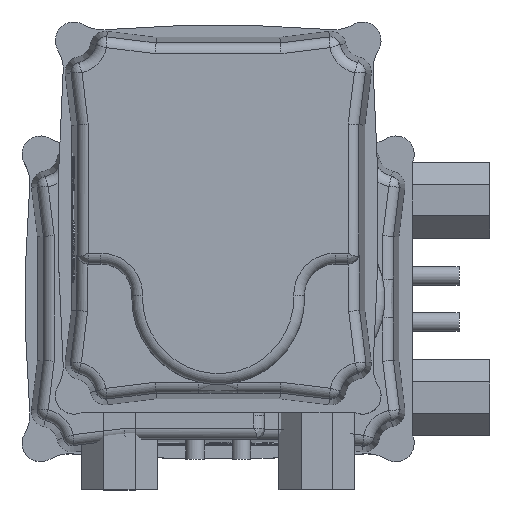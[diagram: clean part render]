
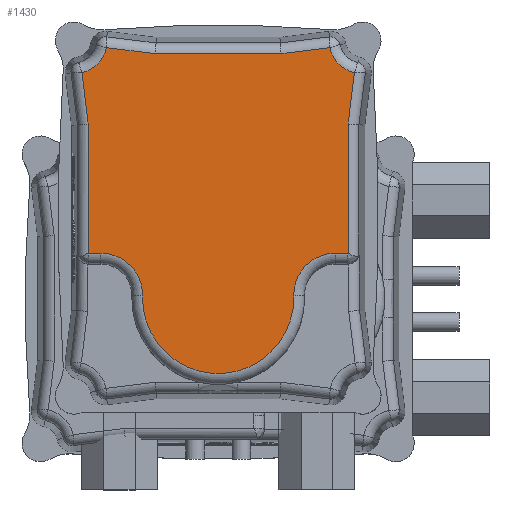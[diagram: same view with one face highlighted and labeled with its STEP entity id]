
A CAD part, top view. The second image highlights one B-rep face of the part: STEP entity #1430.
In plain terms, the highlighted planar face has unit normal (0, 0, 1).
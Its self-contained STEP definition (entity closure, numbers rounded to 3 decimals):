
#1430 = ADVANCED_FACE( '', ( #3238 ), #3239, .T. );
#3238 = FACE_OUTER_BOUND( '', #9111, .T. );
#3239 = PLANE( '', #9112 );
#9111 = EDGE_LOOP( '', ( #14886, #14887, #14888, #14889, #14890, #14891, #14892, #14893, #14894, #14895, #14896, #14897, #14898, #14899, #14900, #14901 ) );
#9112 = AXIS2_PLACEMENT_3D( '', #14902, #14903, #14904 );
#14886 = ORIENTED_EDGE( '', *, *, #17934, .T. );
#14887 = ORIENTED_EDGE( '', *, *, #19137, .T. );
#14888 = ORIENTED_EDGE( '', *, *, #17941, .T. );
#14889 = ORIENTED_EDGE( '', *, *, #18035, .T. );
#14890 = ORIENTED_EDGE( '', *, *, #19097, .T. );
#14891 = ORIENTED_EDGE( '', *, *, #17589, .T. );
#14892 = ORIENTED_EDGE( '', *, *, #18117, .T. );
#14893 = ORIENTED_EDGE( '', *, *, #19138, .T. );
#14894 = ORIENTED_EDGE( '', *, *, #17974, .T. );
#14895 = ORIENTED_EDGE( '', *, *, #19139, .T. );
#14896 = ORIENTED_EDGE( '', *, *, #19140, .T. );
#14897 = ORIENTED_EDGE( '', *, *, #18643, .T. );
#14898 = ORIENTED_EDGE( '', *, *, #18123, .T. );
#14899 = ORIENTED_EDGE( '', *, *, #19141, .T. );
#14900 = ORIENTED_EDGE( '', *, *, #17579, .T. );
#14901 = ORIENTED_EDGE( '', *, *, #18861, .T. );
#14902 = CARTESIAN_POINT( '', ( 47.227, -44.578, 84. ) );
#14903 = DIRECTION( '', ( 0., 0., 1. ) );
#14904 = DIRECTION( '', ( 1., 0., 0. ) );
#17579 = EDGE_CURVE( '', #19835, #19840, #19842, .F. );
#17589 = EDGE_CURVE( '', #19859, #19857, #19860, .T. );
#17934 = EDGE_CURVE( '', #20467, #20472, #20474, .T. );
#17941 = EDGE_CURVE( '', #20485, #20447, #20486, .F. );
#17974 = EDGE_CURVE( '', #20539, #20537, #20540, .T. );
#18035 = EDGE_CURVE( '', #20447, #20642, #20644, .T. );
#18117 = EDGE_CURVE( '', #19857, #20774, #20776, .T. );
#18123 = EDGE_CURVE( '', #20779, #20783, #20785, .T. );
#18643 = EDGE_CURVE( '', #21615, #20779, #21616, .T. );
#18861 = EDGE_CURVE( '', #19840, #20467, #21938, .T. );
#19097 = EDGE_CURVE( '', #20642, #19859, #22248, .T. );
#19137 = EDGE_CURVE( '', #20472, #20485, #22300, .T. );
#19138 = EDGE_CURVE( '', #20774, #20539, #22301, .F. );
#19139 = EDGE_CURVE( '', #20537, #22302, #22303, .F. );
#19140 = EDGE_CURVE( '', #22302, #21615, #22304, .T. );
#19141 = EDGE_CURVE( '', #20783, #19835, #22305, .T. );
#19835 = VERTEX_POINT( '', #23186 );
#19840 = VERTEX_POINT( '', #23210 );
#19842 = CIRCLE( '', #23233, 10.907 );
#19857 = VERTEX_POINT( '', #23252 );
#19859 = VERTEX_POINT( '', #23254 );
#19860 = CIRCLE( '', #23255, 0.5 );
#20447 = VERTEX_POINT( '', #24556 );
#20467 = VERTEX_POINT( '', #24623 );
#20472 = VERTEX_POINT( '', #24629 );
#20474 = LINE( '', #24631, #24632 );
#20485 = VERTEX_POINT( '', #24647 );
#20486 = CIRCLE( '', #24648, 10.907 );
#20537 = VERTEX_POINT( '', #24772 );
#20539 = VERTEX_POINT( '', #24774 );
#20540 = CIRCLE( '', #24775, 24.5 );
#20642 = VERTEX_POINT( '', #25026 );
#20644 = LINE( '', #25028, #25029 );
#20774 = VERTEX_POINT( '', #25400 );
#20776 = LINE( '', #25402, #25403 );
#20779 = VERTEX_POINT( '', #25407 );
#20783 = VERTEX_POINT( '', #25433 );
#20785 = LINE( '', #25435, #25436 );
#21615 = VERTEX_POINT( '', #28199 );
#21616 = CIRCLE( '', #28200, 0.5 );
#21938 = LINE( '', #28789, #28790 );
#22248 = LINE( '', #29492, #29493 );
#22300 = LINE( '', #29562, #29563 );
#22301 = CIRCLE( '', #29564, 13.5 );
#22302 = VERTEX_POINT( '', #29565 );
#22303 = CIRCLE( '', #29566, 13.5 );
#22304 = LINE( '', #29567, #29568 );
#22305 = LINE( '', #29569, #29570 );
#23186 = CARTESIAN_POINT( '', ( -46.913, 44.129, 84. ) );
#23210 = CARTESIAN_POINT( '', ( -55.033, 36.126, 84. ) );
#23233 = AXIS2_PLACEMENT_3D( '', #31393, #31394, #31395 );
#23252 = CARTESIAN_POINT( '', ( 11.5, -42., 84. ) );
#23254 = CARTESIAN_POINT( '', ( 11.491, -42.093, 84. ) );
#23255 = AXIS2_PLACEMENT_3D( '', #31406, #31407, #31408 );
#24556 = CARTESIAN_POINT( '', ( -46.913, -44.129, 84. ) );
#24623 = CARTESIAN_POINT( '', ( -53.093, 20.331, 84. ) );
#24629 = CARTESIAN_POINT( '', ( -53.093, -20.331, 84. ) );
#24631 = CARTESIAN_POINT( '', ( -53.093, -44.578, 84. ) );
#24632 = VECTOR( '', #31786, 1000. );
#24647 = CARTESIAN_POINT( '', ( -55.033, -36.126, 84. ) );
#24648 = AXIS2_PLACEMENT_3D( '', #31790, #31791, #31792 );
#24772 = CARTESIAN_POINT( '', ( 25.355, 24.492, 84. ) );
#24774 = CARTESIAN_POINT( '', ( 25.355, -24.492, 84. ) );
#24775 = AXIS2_PLACEMENT_3D( '', #31825, #31826, #31827 );
#25026 = CARTESIAN_POINT( '', ( -30.331, -42.093, 84. ) );
#25028 = CARTESIAN_POINT( '', ( 45.775, -32.749, 84. ) );
#25029 = VECTOR( '', #31886, 1000. );
#25400 = CARTESIAN_POINT( '', ( 11.5, -37.987, 84. ) );
#25402 = CARTESIAN_POINT( '', ( 11.5, -44.578, 84. ) );
#25403 = VECTOR( '', #31956, 1000. );
#25407 = CARTESIAN_POINT( '', ( 11.491, 42.093, 84. ) );
#25433 = CARTESIAN_POINT( '', ( -30.331, 42.093, 84. ) );
#25435 = CARTESIAN_POINT( '', ( 47.227, 42.093, 84. ) );
#25436 = VECTOR( '', #31962, 1000. );
#28199 = CARTESIAN_POINT( '', ( 11.5, 42., 84. ) );
#28200 = AXIS2_PLACEMENT_3D( '', #32309, #32310, #32311 );
#28789 = CARTESIAN_POINT( '', ( -43.752, -55.749, 84. ) );
#28790 = VECTOR( '', #32511, 1000. );
#29492 = CARTESIAN_POINT( '', ( 47.227, -42.093, 84. ) );
#29493 = VECTOR( '', #32690, 1000. );
#29562 = CARTESIAN_POINT( '', ( -54.536, -32.083, 84. ) );
#29563 = VECTOR( '', #32719, 1000. );
#29564 = AXIS2_PLACEMENT_3D( '', #32720, #32721, #32722 );
#29565 = CARTESIAN_POINT( '', ( 11.5, 37.987, 84. ) );
#29566 = AXIS2_PLACEMENT_3D( '', #32723, #32724, #32725 );
#29567 = CARTESIAN_POINT( '', ( 11.5, -44.578, 84. ) );
#29568 = VECTOR( '', #32726, 1000. );
#29569 = CARTESIAN_POINT( '', ( 56.559, 31.425, 84. ) );
#29570 = VECTOR( '', #32727, 1000. );
#31393 = CARTESIAN_POINT( '', ( -57.5, 46.75, 84. ) );
#31394 = DIRECTION( '', ( 0., 0., 1. ) );
#31395 = DIRECTION( '', ( 1., 0., 0. ) );
#31406 = CARTESIAN_POINT( '', ( 11., -42., 84. ) );
#31407 = DIRECTION( '', ( 0., 0., 1. ) );
#31408 = DIRECTION( '', ( 1., 0., 0. ) );
#31786 = DIRECTION( '', ( 0., -1., 0. ) );
#31790 = CARTESIAN_POINT( '', ( -57.5, -46.75, 84. ) );
#31791 = DIRECTION( '', ( 0., 0., 1. ) );
#31792 = DIRECTION( '', ( 1., 0., 0. ) );
#31825 = CARTESIAN_POINT( '', ( 26., 0., 84. ) );
#31826 = DIRECTION( '', ( 0., 0., 1. ) );
#31827 = DIRECTION( '', ( 1., 0., 0. ) );
#31886 = DIRECTION( '', ( 0.993, 0.122, 0. ) );
#31956 = DIRECTION( '', ( 0., 1., 0. ) );
#31962 = DIRECTION( '', ( -1., 0., 0. ) );
#32309 = CARTESIAN_POINT( '', ( 11., 42., 84. ) );
#32310 = DIRECTION( '', ( 0., 0., 1. ) );
#32311 = DIRECTION( '', ( 1., 0., 0. ) );
#32511 = DIRECTION( '', ( 0.122, -0.993, 0. ) );
#32690 = DIRECTION( '', ( 1., 0., 0. ) );
#32719 = DIRECTION( '', ( -0.122, -0.993, 0. ) );
#32720 = CARTESIAN_POINT( '', ( 25., -37.987, 84. ) );
#32721 = DIRECTION( '', ( 0., 0., 1. ) );
#32722 = DIRECTION( '', ( 1., 0., 0. ) );
#32723 = CARTESIAN_POINT( '', ( 25., 37.987, 84. ) );
#32724 = DIRECTION( '', ( 0., 0., 1. ) );
#32725 = DIRECTION( '', ( 1., 0., 0. ) );
#32726 = DIRECTION( '', ( 0., 1., 0. ) );
#32727 = DIRECTION( '', ( -0.993, 0.122, 0. ) );
